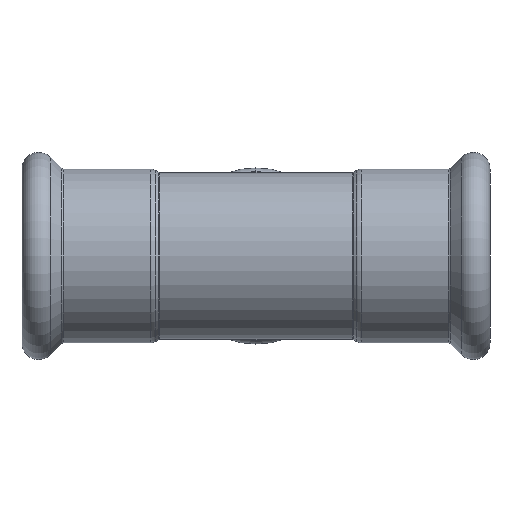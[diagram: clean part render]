
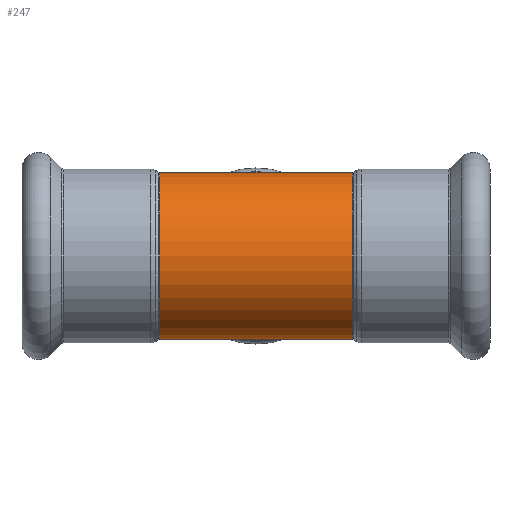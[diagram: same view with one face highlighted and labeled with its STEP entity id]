
A CAD part, front view. The second image highlights one B-rep face of the part: STEP entity #247.
In plain terms, the highlighted cylindrical face has radius 15 mm (diameter 30 mm), a partial arc.
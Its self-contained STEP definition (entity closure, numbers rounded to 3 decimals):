
#120 = CARTESIAN_POINT ( 'NONE',  ( 27.146, 0., -15. ) ) ;
#128 = DIRECTION ( 'NONE',  ( -1., 0., 0. ) ) ;
#148 = AXIS2_PLACEMENT_3D ( 'NONE', #4102, #2447, #437 ) ;
#247 = ADVANCED_FACE ( 'NONE', ( #3749 ), #4333, .T. ) ;
#437 = DIRECTION ( 'NONE',  ( 0., 0., 1. ) ) ;
#712 = LINE ( 'NONE', #120, #4178 ) ;
#752 = EDGE_CURVE ( 'NONE', #1040, #3392, #1690, .T. ) ;
#795 = CARTESIAN_POINT ( 'NONE',  ( 17.248, 0., 0. ) ) ;
#855 = DIRECTION ( 'NONE',  ( -1., 0., 0. ) ) ;
#1031 = DIRECTION ( 'NONE',  ( 0., 0., 1. ) ) ;
#1040 = VERTEX_POINT ( 'NONE', #1618 ) ;
#1124 = CARTESIAN_POINT ( 'NONE',  ( 27.146, 0., 15. ) ) ;
#1179 = CARTESIAN_POINT ( 'NONE',  ( -17.248, 0., -15. ) ) ;
#1314 = EDGE_LOOP ( 'NONE', ( #4327, #1423, #1706, #2029 ) ) ;
#1322 = CIRCLE ( 'NONE', #2416, 15. ) ;
#1327 = AXIS2_PLACEMENT_3D ( 'NONE', #3027, #1726, #1031 ) ;
#1423 = ORIENTED_EDGE ( 'NONE', *, *, #2397, .T. ) ;
#1453 = CARTESIAN_POINT ( 'NONE',  ( 17.248, 0., -15. ) ) ;
#1618 = CARTESIAN_POINT ( 'NONE',  ( 17.248, 0., 15. ) ) ;
#1690 = LINE ( 'NONE', #1124, #3932 ) ;
#1706 = ORIENTED_EDGE ( 'NONE', *, *, #752, .T. ) ;
#1726 = DIRECTION ( 'NONE',  ( -1., 0., 0. ) ) ;
#1789 = DIRECTION ( 'NONE',  ( -1., 0., 0. ) ) ;
#1867 = EDGE_CURVE ( 'NONE', #3425, #3392, #2923, .T. ) ;
#1888 = VERTEX_POINT ( 'NONE', #1453 ) ;
#1895 = EDGE_CURVE ( 'NONE', #1888, #3425, #712, .T. ) ;
#2029 = ORIENTED_EDGE ( 'NONE', *, *, #1867, .F. ) ;
#2397 = EDGE_CURVE ( 'NONE', #1888, #1040, #1322, .T. ) ;
#2416 = AXIS2_PLACEMENT_3D ( 'NONE', #795, #1789, #3466 ) ;
#2447 = DIRECTION ( 'NONE',  ( -1., 0., 0. ) ) ;
#2923 = CIRCLE ( 'NONE', #148, 15. ) ;
#3027 = CARTESIAN_POINT ( 'NONE',  ( 27.146, 0., 0. ) ) ;
#3137 = CARTESIAN_POINT ( 'NONE',  ( -17.248, 0., 15. ) ) ;
#3392 = VERTEX_POINT ( 'NONE', #3137 ) ;
#3425 = VERTEX_POINT ( 'NONE', #1179 ) ;
#3466 = DIRECTION ( 'NONE',  ( 0., 0., 1. ) ) ;
#3749 = FACE_OUTER_BOUND ( 'NONE', #1314, .T. ) ;
#3932 = VECTOR ( 'NONE', #128, 1000. ) ;
#4102 = CARTESIAN_POINT ( 'NONE',  ( -17.248, 0., 0. ) ) ;
#4178 = VECTOR ( 'NONE', #855, 1000. ) ;
#4327 = ORIENTED_EDGE ( 'NONE', *, *, #1895, .F. ) ;
#4333 = CYLINDRICAL_SURFACE ( 'NONE', #1327, 15. ) ;
